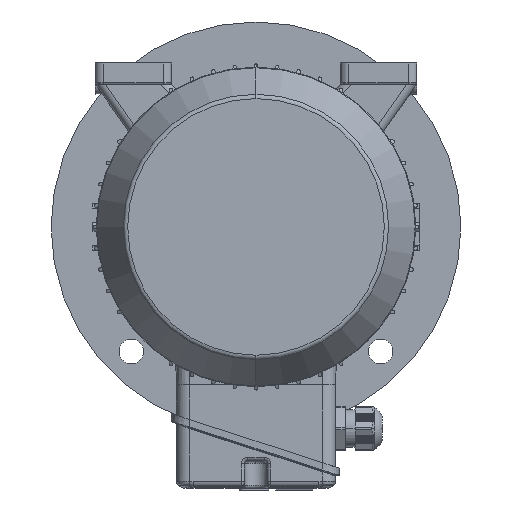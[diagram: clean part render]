
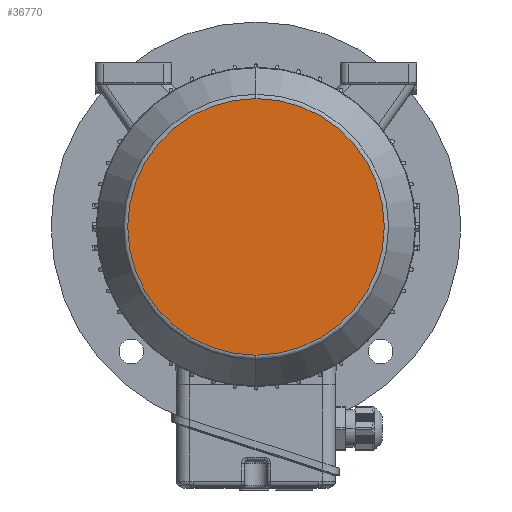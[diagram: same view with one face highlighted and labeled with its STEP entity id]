
A CAD part, left-side view. The second image highlights one B-rep face of the part: STEP entity #36770.
In plain terms, the highlighted planar face has unit normal (-1, 0, 0).
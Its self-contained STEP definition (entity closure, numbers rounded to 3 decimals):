
#1991 = AXIS2_PLACEMENT_3D ( 'NONE', #19072, #22918, #43781 ) ;
#2073 = AXIS2_PLACEMENT_3D ( 'NONE', #18565, #47887, #27015 ) ;
#2267 = VERTEX_POINT ( 'NONE', #38792 ) ;
#6891 = CIRCLE ( 'NONE', #2073, 78.268 ) ;
#16637 = EDGE_LOOP ( 'NONE', ( #38169, #38803 ) ) ;
#17626 = CIRCLE ( 'NONE', #34655, 78.268 ) ;
#18325 = DIRECTION ( 'NONE',  ( 1., 0., 0. ) ) ;
#18565 = CARTESIAN_POINT ( 'NONE',  ( -190.5, 0., 0. ) ) ;
#19072 = CARTESIAN_POINT ( 'NONE',  ( -190.5, 0., -78.268 ) ) ;
#22918 = DIRECTION ( 'NONE',  ( -1., 0., 0. ) ) ;
#25213 = EDGE_CURVE ( 'NONE', #42046, #2267, #17626, .T. ) ;
#26950 = CARTESIAN_POINT ( 'NONE',  ( -190.5, 0., 0. ) ) ;
#27015 = DIRECTION ( 'NONE',  ( 0., 0., -1. ) ) ;
#34655 = AXIS2_PLACEMENT_3D ( 'NONE', #26950, #18325, #38822 ) ;
#34671 = CARTESIAN_POINT ( 'NONE',  ( -190.5, 0., -78.268 ) ) ;
#36770 = ADVANCED_FACE ( 'NONE', ( #38229 ), #47846, .T. ) ;
#38169 = ORIENTED_EDGE ( 'NONE', *, *, #25213, .F. ) ;
#38229 = FACE_OUTER_BOUND ( 'NONE', #16637, .T. ) ;
#38792 = CARTESIAN_POINT ( 'NONE',  ( -190.5, 0., 78.268 ) ) ;
#38803 = ORIENTED_EDGE ( 'NONE', *, *, #40512, .F. ) ;
#38822 = DIRECTION ( 'NONE',  ( 0., 0., -1. ) ) ;
#40512 = EDGE_CURVE ( 'NONE', #2267, #42046, #6891, .T. ) ;
#42046 = VERTEX_POINT ( 'NONE', #34671 ) ;
#43781 = DIRECTION ( 'NONE',  ( 0., 1., 0. ) ) ;
#47846 = PLANE ( 'NONE',  #1991 ) ;
#47887 = DIRECTION ( 'NONE',  ( 1., 0., 0. ) ) ;
